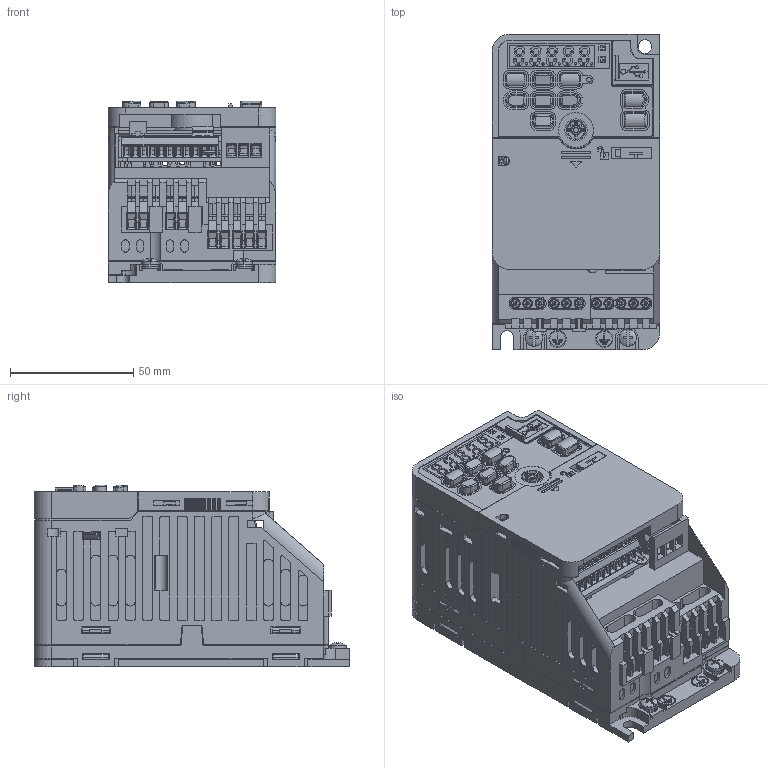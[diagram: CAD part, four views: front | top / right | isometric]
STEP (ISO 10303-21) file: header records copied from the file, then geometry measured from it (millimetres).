
FILE_DESCRIPTION((''),'2;1');
FILE_NAME('CIPR-GA50XB002AJXX_ASM','2020-01-20T',('vsetu'),('YASKAWA ELECTRIC CORCORATION'),'PRO/ENGINEER BY PARAMETRIC TECHNOLOGY CORPORATION, 2015110','PRO/ENGINEER BY PARAMETRIC TECHNOLOGY CORPORATION, 2015110','');
FILE_SCHEMA(('AUTOMOTIVE_DESIGN { 1 0 10303 214 1 1 1 1 }'));
Products named in the file (10): CIPR-GA50XB002AJXX_BODY_1; CIPR-GA50_ALL_TB; CIPR-GA50_KEYPAD; CIPR-GA50_USB_COVER; CIPR-GA50_COMMON_1; CIPR-GA50_COMMON_2; CIPR-GA50_FP; CIPR-GA50_TERMINAL_COVER_1; CIPR-GA50_SCREW_GND_M3_5X7; CIPR-GA50XB002AJXX_ASM
Assembly tree (11 placements, depth 2):
  CIPR-GA50XB002AJXX_ASM
    CIPR-GA50XB002AJXX_BODY_1
    CIPR-GA50_ALL_TB
    CIPR-GA50_KEYPAD
    CIPR-GA50_USB_COVER
    CIPR-GA50_COMMON_1
    CIPR-GA50_COMMON_2
    CIPR-GA50_FP
    CIPR-GA50_TERMINAL_COVER_1  x2
    CIPR-GA50_SCREW_GND_M3_5X7  x2
Bounding box: 68 x 128 x 73.75 mm (x, y, z)
Volume: 418509.2 mm3; surface area: 120958.6 mm2
Topology: 12 solids, 12 shells, 6494 faces, 17198 edges, 11166 vertices
Faces by surface type: plane 5263, cylinder 1022, cone 97, torus 64, bspline 34, sphere 14
Entity records: 245781 total; most frequent: CARTESIAN_POINT 38296, ORIENTED_EDGE 34026, DIRECTION 31976, EDGE_CURVE 17013, VECTOR 14170, LINE 14170, VERTEX_POINT 11050, AXIS2_PLACEMENT_3D 8903
